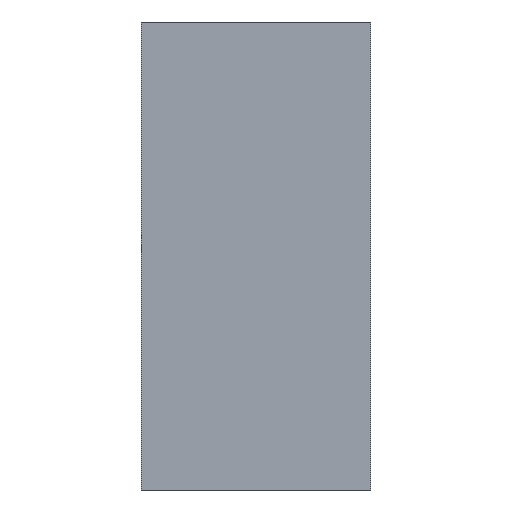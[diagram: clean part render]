
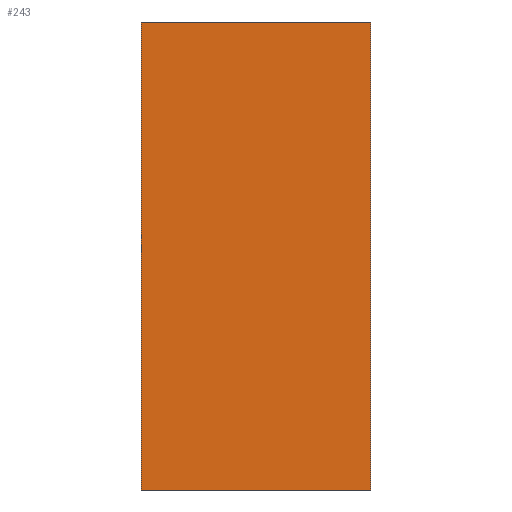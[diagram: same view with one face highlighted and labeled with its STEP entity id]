
A CAD part, left-side view. The second image highlights one B-rep face of the part: STEP entity #243.
In plain terms, the highlighted planar face has unit normal (-1, 0, 0).
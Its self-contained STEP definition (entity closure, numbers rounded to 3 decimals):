
#1 = ORIENTED_EDGE ( 'NONE', *, *, #408, .F. ) ;
#36 = VERTEX_POINT ( 'NONE', #689 ) ;
#67 = CARTESIAN_POINT ( 'NONE',  ( -98., 96., 98. ) ) ;
#82 = CARTESIAN_POINT ( 'NONE',  ( -98., 96., 98. ) ) ;
#108 = LINE ( 'NONE', #241, #856 ) ;
#159 = DIRECTION ( 'NONE',  ( 0., 0., 1. ) ) ;
#185 = LINE ( 'NONE', #529, #427 ) ;
#203 = CARTESIAN_POINT ( 'NONE',  ( -98., 96., -98. ) ) ;
#204 = DIRECTION ( 'NONE',  ( 0., -1., 0. ) ) ;
#218 = CARTESIAN_POINT ( 'NONE',  ( -98., 0., 98. ) ) ;
#241 = CARTESIAN_POINT ( 'NONE',  ( -98., 96., -98. ) ) ;
#243 = ADVANCED_FACE ( 'NONE', ( #683 ), #657, .F. ) ;
#252 = EDGE_CURVE ( 'NONE', #385, #859, #108, .T. ) ;
#309 = DIRECTION ( 'NONE',  ( 0., -1., 0. ) ) ;
#317 = ORIENTED_EDGE ( 'NONE', *, *, #252, .T. ) ;
#352 = VERTEX_POINT ( 'NONE', #363 ) ;
#363 = CARTESIAN_POINT ( 'NONE',  ( -98., 96., 98. ) ) ;
#373 = ORIENTED_EDGE ( 'NONE', *, *, #900, .F. ) ;
#383 = LINE ( 'NONE', #218, #937 ) ;
#385 = VERTEX_POINT ( 'NONE', #203 ) ;
#408 = EDGE_CURVE ( 'NONE', #352, #36, #670, .T. ) ;
#427 = VECTOR ( 'NONE', #159, 1000. ) ;
#448 = DIRECTION ( 'NONE',  ( 0., 0., -1. ) ) ;
#456 = DIRECTION ( 'NONE',  ( 1., 0., 0. ) ) ;
#473 = VECTOR ( 'NONE', #204, 1000. ) ;
#483 = EDGE_CURVE ( 'NONE', #859, #36, #383, .T. ) ;
#529 = CARTESIAN_POINT ( 'NONE',  ( -98., 96., 98. ) ) ;
#533 = CARTESIAN_POINT ( 'NONE',  ( -98., 0., -98. ) ) ;
#601 = AXIS2_PLACEMENT_3D ( 'NONE', #82, #456, #448 ) ;
#622 = ORIENTED_EDGE ( 'NONE', *, *, #483, .T. ) ;
#657 = PLANE ( 'NONE',  #601 ) ;
#670 = LINE ( 'NONE', #67, #473 ) ;
#683 = FACE_OUTER_BOUND ( 'NONE', #947, .T. ) ;
#689 = CARTESIAN_POINT ( 'NONE',  ( -98., 0., 98. ) ) ;
#812 = DIRECTION ( 'NONE',  ( 0., 0., 1. ) ) ;
#856 = VECTOR ( 'NONE', #309, 1000. ) ;
#859 = VERTEX_POINT ( 'NONE', #533 ) ;
#900 = EDGE_CURVE ( 'NONE', #385, #352, #185, .T. ) ;
#937 = VECTOR ( 'NONE', #812, 1000. ) ;
#947 = EDGE_LOOP ( 'NONE', ( #622, #1, #373, #317 ) ) ;
